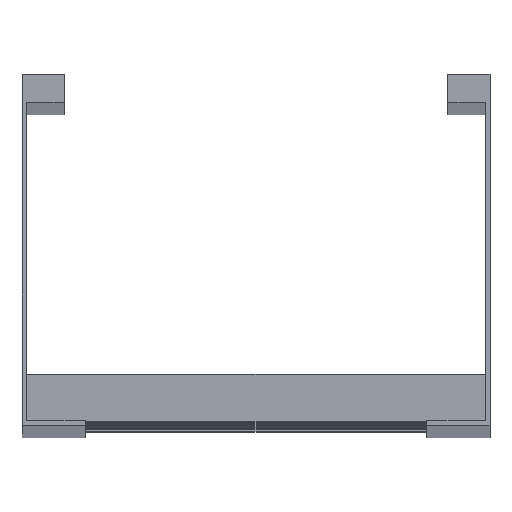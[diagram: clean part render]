
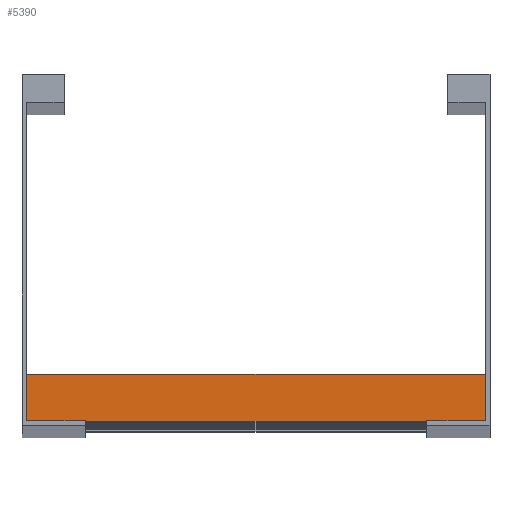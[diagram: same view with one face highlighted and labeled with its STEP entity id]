
A CAD part, top view. The second image highlights one B-rep face of the part: STEP entity #5390.
In plain terms, the highlighted planar face has unit normal (0, 0, 1).
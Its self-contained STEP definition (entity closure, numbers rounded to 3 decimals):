
#153 = EDGE_CURVE ( 'NONE', #2182, #4865, #7835, .T. ) ;
#1051 = VERTEX_POINT ( 'NONE', #7271 ) ;
#1304 = AXIS2_PLACEMENT_3D ( 'NONE', #7894, #5114, #11458 ) ;
#1535 = CARTESIAN_POINT ( 'NONE',  ( -98., 20., 20.25 ) ) ;
#1950 = EDGE_CURVE ( 'NONE', #1051, #4865, #3116, .T. ) ;
#2182 = VERTEX_POINT ( 'NONE', #1535 ) ;
#2298 = CARTESIAN_POINT ( 'NONE',  ( 98., 0., 20.25 ) ) ;
#3116 = LINE ( 'NONE', #2298, #5538 ) ;
#3483 = PLANE ( 'NONE',  #1304 ) ;
#4363 = FACE_OUTER_BOUND ( 'NONE', #5884, .T. ) ;
#4491 = CARTESIAN_POINT ( 'NONE',  ( 98., 20., 20.25 ) ) ;
#4673 = VECTOR ( 'NONE', #5937, 1000. ) ;
#4865 = VERTEX_POINT ( 'NONE', #5717 ) ;
#4915 = ORIENTED_EDGE ( 'NONE', *, *, #5067, .F. ) ;
#5056 = ORIENTED_EDGE ( 'NONE', *, *, #6481, .T. ) ;
#5067 = EDGE_CURVE ( 'NONE', #9555, #1051, #8083, .T. ) ;
#5114 = DIRECTION ( 'NONE',  ( 0., 0., -1. ) ) ;
#5165 = DIRECTION ( 'NONE',  ( 0., -1., 0. ) ) ;
#5390 = ADVANCED_FACE ( 'NONE', ( #4363 ), #3483, .F. ) ;
#5538 = VECTOR ( 'NONE', #7473, 1000. ) ;
#5717 = CARTESIAN_POINT ( 'NONE',  ( -98., 0., 20.25 ) ) ;
#5777 = ORIENTED_EDGE ( 'NONE', *, *, #1950, .F. ) ;
#5884 = EDGE_LOOP ( 'NONE', ( #7832, #5777, #4915, #5056 ) ) ;
#5937 = DIRECTION ( 'NONE',  ( -1., 0., 0. ) ) ;
#6481 = EDGE_CURVE ( 'NONE', #9555, #2182, #9371, .T. ) ;
#7087 = CARTESIAN_POINT ( 'NONE',  ( -98., 20., 20.25 ) ) ;
#7214 = DIRECTION ( 'NONE',  ( 0., -1., 0. ) ) ;
#7271 = CARTESIAN_POINT ( 'NONE',  ( 98., 0., 20.25 ) ) ;
#7473 = DIRECTION ( 'NONE',  ( -1., 0., 0. ) ) ;
#7799 = VECTOR ( 'NONE', #7214, 1000. ) ;
#7832 = ORIENTED_EDGE ( 'NONE', *, *, #153, .T. ) ;
#7835 = LINE ( 'NONE', #7087, #10696 ) ;
#7894 = CARTESIAN_POINT ( 'NONE',  ( 98., 20., 20.25 ) ) ;
#8083 = LINE ( 'NONE', #9080, #7799 ) ;
#9080 = CARTESIAN_POINT ( 'NONE',  ( 98., 20., 20.25 ) ) ;
#9371 = LINE ( 'NONE', #10188, #4673 ) ;
#9555 = VERTEX_POINT ( 'NONE', #4491 ) ;
#10188 = CARTESIAN_POINT ( 'NONE',  ( 98., 20., 20.25 ) ) ;
#10696 = VECTOR ( 'NONE', #5165, 1000. ) ;
#11458 = DIRECTION ( 'NONE',  ( 0., 1., 0. ) ) ;
